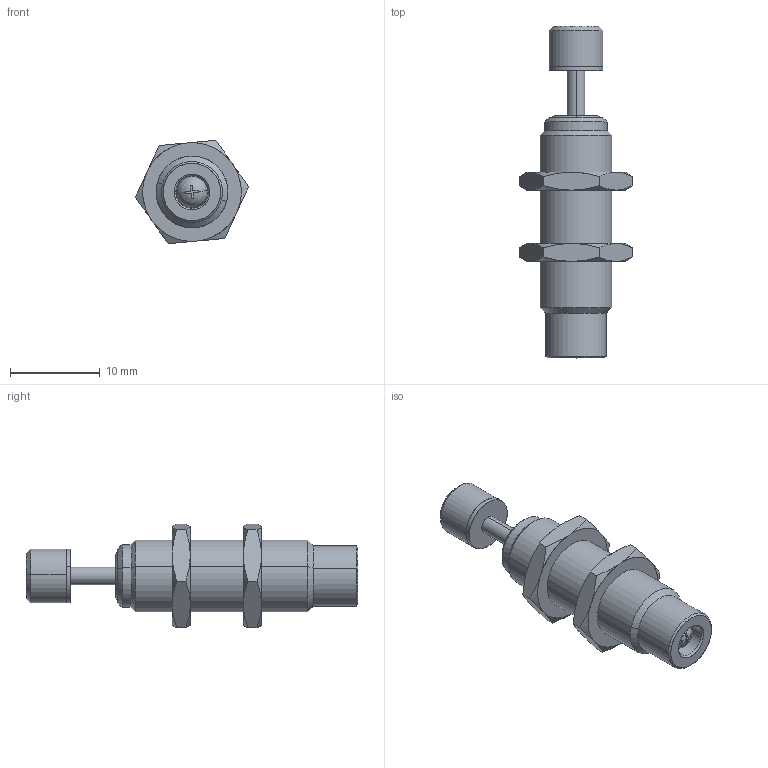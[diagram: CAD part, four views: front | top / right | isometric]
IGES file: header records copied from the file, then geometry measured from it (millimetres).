
Start section: SolidWorks IGES file using analytic representation for surfaces
Bounding box: 12.65 x 37 x 11.53 mm (x, y, z)
Surface area: 1390.2 mm2 (no closed solid volume)
Topology: 0 solids, 0 shells, 90 faces, 1298 edges, 1298 vertices
Faces by surface type: revolution 54, bspline 36
